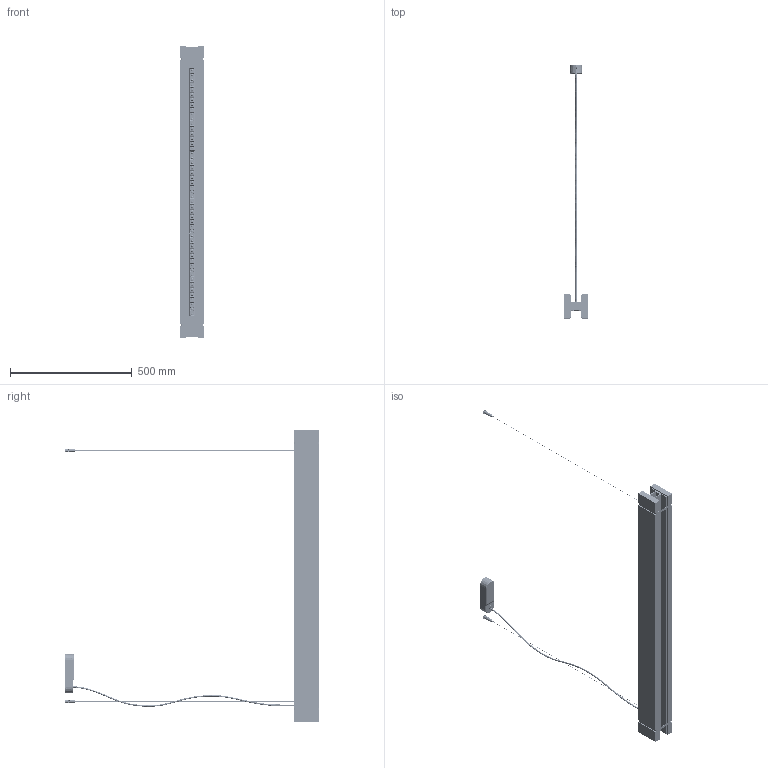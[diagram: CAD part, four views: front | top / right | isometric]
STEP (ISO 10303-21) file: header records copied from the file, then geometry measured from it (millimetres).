
FILE_DESCRIPTION (( 'STEP AP203' ), '1' );
FILE_NAME ('322_STD_S_LD_3D_LATO.STEP', '2023-11-08T13:29:33', ( '' ), ( '' ), 'SwSTEP 2.0', 'SolidWorks 2023', '' );
FILE_SCHEMA (( 'CONFIG_CONTROL_DESIGN' ));
Products named in the file (1): 322_STD_S_LD_3D_LATO
Bounding box: 96 x 1042.2 x 1200 mm (x, y, z)
Volume: 7285144.2 mm3; surface area: 1448180.5 mm2
Topology: 34 solids, 34 shells, 14106 faces, 35057 edges, 20932 vertices
Faces by surface type: bspline 5846, plane 3460, cylinder 2971, cone 835, sphere 537, torus 457
Entity records: 879487 total; most frequent: CARTESIAN_POINT 603910, ORIENTED_EDGE 69346, DIRECTION 36996, EDGE_CURVE 34673, VERTEX_POINT 20872, B_SPLINE_CURVE_WITH_KNOTS 17446, EDGE_LOOP 14513, FACE_OUTER_BOUND 14100
